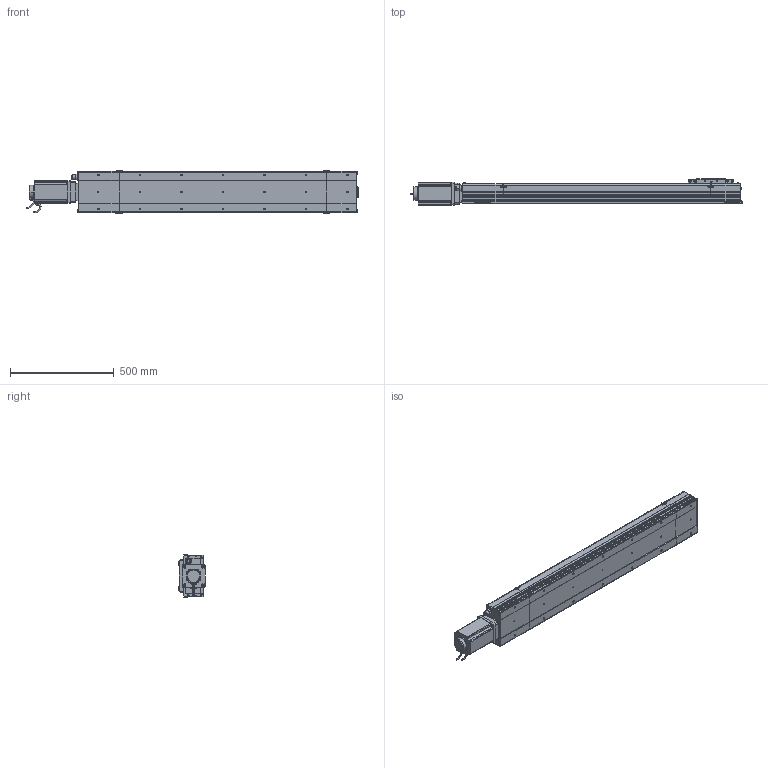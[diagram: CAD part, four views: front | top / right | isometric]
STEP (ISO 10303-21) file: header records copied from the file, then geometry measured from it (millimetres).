
FILE_DESCRIPTION (( 'STEP AP214' ), '1' );
FILE_NAME ('D20 CSH MD S1000.STEP', '2010-06-30T08:14:39', ( 'Conseil Régional Haute-Normandie' ), ( 'Conseil Régional Haute-Normandie' ), 'SwSTEP 2.0', 'SolidWorks 2010', '' );
FILE_SCHEMA (( 'AUTOMOTIVE_DESIGN' ));
Length unit declared in the file: millimetre
Products named in the file (28): Conecteur_Default; clavette; Support Chariot D20_Default; Chariot D20_Default; vis M5 L15_Default; Glissiere_Default; Corp Tail D20_Default; Tail D20_Default; D20 CSH MD S1000; Plaque De Serrage D20_Default; Plaque de Bout Tail D20_Default; Couvercle_Default; Couvercle S1000_Default; Corp S1000_Default; Corp D20 S1000_Default; Couvercle Head_Default; Corp Head D20_Default; Head D20 MD_Default; Plaque racord D20_Default; Plaque De Serrage Head D20_Default; Plaque de Bout Head D20_Default; avant 110BLDC170A-630x; Moteur motionking 110BLDC170A-640x; vis M8 L15_Default; Conecteur2_Default; codeur 110BLDC170A-630x; corps 110BLDC170A-630x
Assembly tree (53 placements, depth 4):
  D20 CSH MD S1000
    Tail D20_Default
      Plaque de Bout Tail D20_Default
      Plaque De Serrage D20_Default
      vis M5 L15_Default  x6
      Corp Tail D20_Default
      Couvercle_Default
    Corp D20 S1000_Default
      Corp S1000_Default
      Couvercle S1000_Default
    Head D20 MD_Default
      Couvercle Head_Default
      Plaque De Serrage Head D20_Default
      vis M5 L15_Default  x10
      vis M8 L15_Default  x4
      Plaque de Bout Head D20_Default
      Plaque racord D20_Default
      Moteur motionking 110BLDC170A-640x
        codeur 110BLDC170A-630x
        clavette
        avant 110BLDC170A-630x
        corps 110BLDC170A-630x
        Conecteur_Default
        Conecteur2_Default
      Corp Head D20_Default
    Chariot D20_Default
      vis M5 L15_Default  x8
      Chariot D20_Default
      Glissiere_Default
      Support Chariot D20_Default
Bounding box: 1599 x 125.5 x 206 mm (x, y, z)
Volume: 11495820.6 mm3; surface area: 2039005.7 mm2
Topology: 90 solids, 90 shells, 3412 faces, 8591 edges, 5613 vertices
Faces by surface type: plane 1941, bspline 758, cylinder 575, torus 79, cone 59
Entity records: 152859 total; most frequent: CARTESIAN_POINT 79337, ORIENTED_EDGE 14578, DIRECTION 10883, EDGE_CURVE 7289, VERTEX_POINT 4833, VECTOR 4781, LINE 4781, EDGE_LOOP 3096
